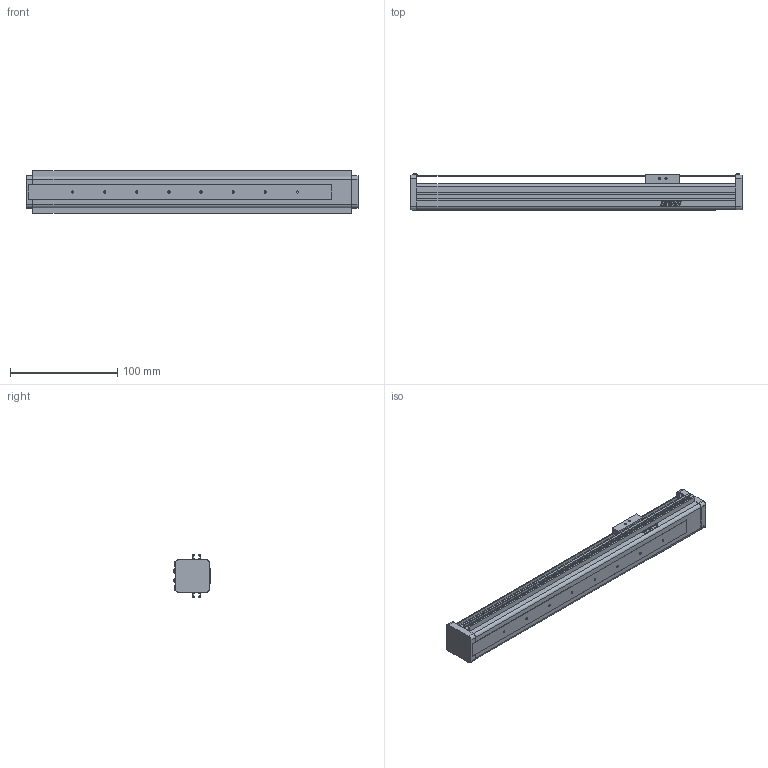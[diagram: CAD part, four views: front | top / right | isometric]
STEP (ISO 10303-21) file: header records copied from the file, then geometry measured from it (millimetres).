
FILE_DESCRIPTION(/* description */ (''),/* implementation_level */ '2;1');
FILE_NAME(/* name */ 'D:\混合母檔20191031\混和母檔\混和母檔\bin\Debug\Download\3D\KE301C-200AF0\KE301C-200AF0.stp',/* time_stamp */ '2019-11-04T13:29:46+08:00',/* author */ ('user'),/* organization */ (''),/* preprocessor_version */ 'ST-DEVELOPER v16.13',/* originating_system */ 'Autodesk Inventor 2018',/* authorisation */ '');
FILE_SCHEMA (('AUTOMOTIVE_DESIGN { 1 0 10303 214 3 1 1 }'));
Length unit declared in the file: millimetre
Products named in the file (3): KE301C-200AF0; KE30-F0-BP; KE30-SL
Assembly tree (2 placements, depth 2):
  KE301C-200AF0
    KE30-F0-BP
    KE30-SL
Bounding box: 310 x 33.67 x 39.6 mm (x, y, z)
Volume: 235313.1 mm3; surface area: 63877.1 mm2
Topology: 2 solids, 6 shells, 461 faces, 1257 edges, 824 vertices
Faces by surface type: plane 264, bspline 114, cylinder 55, cone 20, torus 8
Full cylindrical faces by diameter (mm): 2.013 x4, 2.113 x8, 2.184 x4, 2.459 x4, 2.5 x4, 3 x4, 4 x1, 4.166 x4, 5 x2, 6 x2, 18 x1, 22 x1
Entity records: 18575 total; most frequent: CARTESIAN_POINT 7934, ORIENTED_EDGE 2318, DIRECTION 1738, EDGE_CURVE 1159, VERTEX_POINT 793, LINE 784, VECTOR 784, EDGE_LOOP 560
